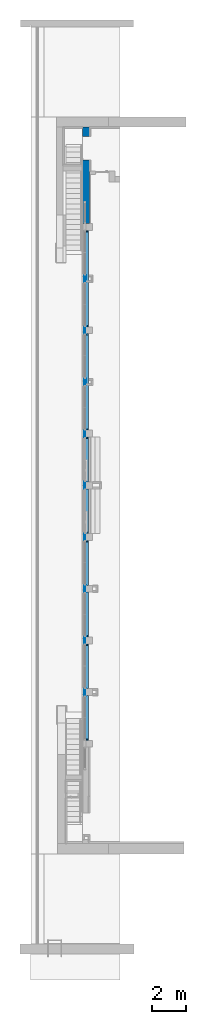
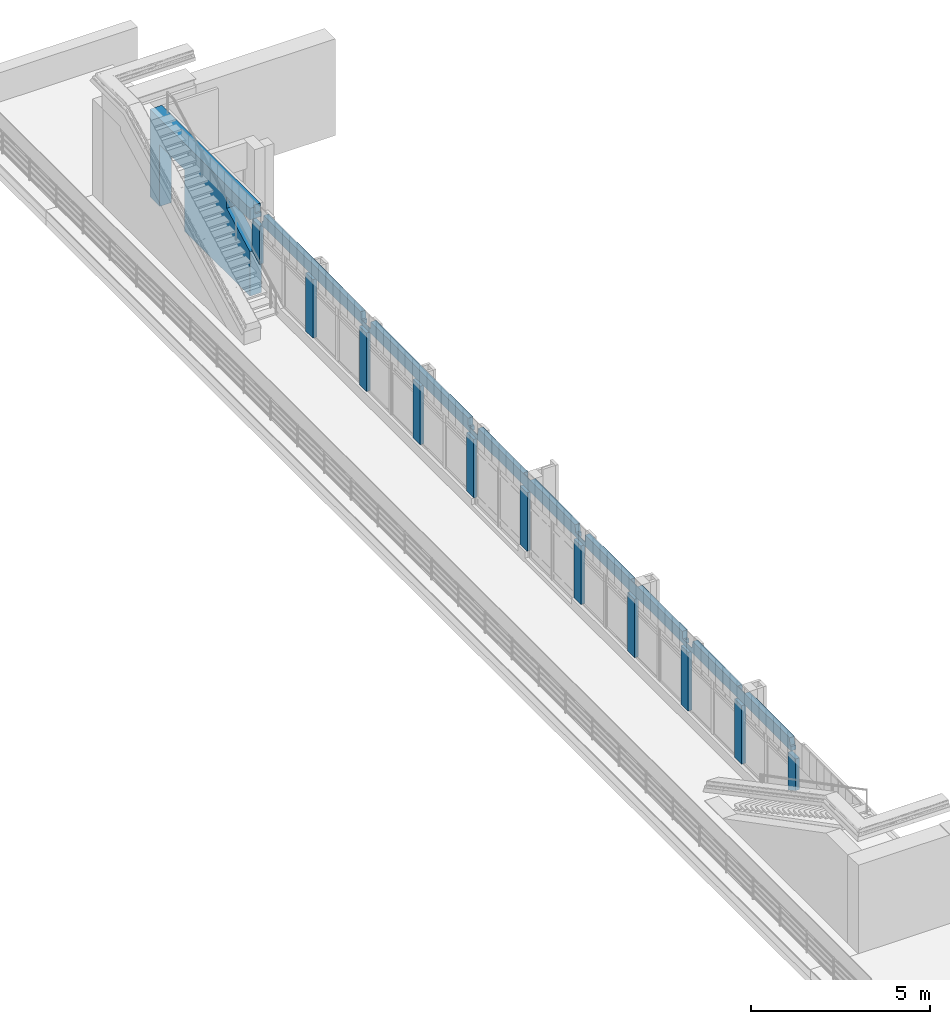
# One storey, part 11 of 16: 3 walls.
"""IFC2X3 building model written with IfcOpenShell, lengths in millimetres."""

import ifcopenshell
import ifcopenshell.guid

model = None  # the IFC model being written
_history = None  # IfcOwnerHistory: only IFC2X3 demands one
_inside = {}  # id of a spatial element -> (the spatial element, [elements in it])
_under = {}  # id of a project, library or spatial element -> (it, [spatial elements below it])
_declared = {}  # id of a project -> (the project, [libraries it declares])
_typed = {}  # id of a type object -> (the type object, [elements of that type])
_made_of = {}  # id of a material, layer set ... -> (it, [elements and type objects made of it])


def new_model(schema):
    """Start an empty IFC model of exactly this schema.

    Asked for "IFC4X3", IfcOpenShell would pick the latest addendum, in which some entities
    have other attributes; the version numbers below select the first issue.
    IFC2X3 requires an IfcOwnerHistory on every rooted entity: one is made here for all.
    """
    global model, _history
    if schema == "IFC4X3":
        model = ifcopenshell.file(schema_version=(4, 3, 0, 0))
    else:
        model = ifcopenshell.file(schema=schema)
    _inside.clear()
    _under.clear()
    _declared.clear()
    _typed.clear()
    _made_of.clear()
    _history = None
    if model.schema == "IFC2X3":
        org = make("IfcOrganization", Name="unknown")
        user = make(
            "IfcPersonAndOrganization",
            ThePerson=make("IfcPerson", FamilyName="unknown"),
            TheOrganization=org,
        )
        app = make(
            "IfcApplication",
            ApplicationDeveloper=org,
            Version="unknown",
            ApplicationFullName="unknown",
            ApplicationIdentifier="unknown",
        )
        _history = make(
            "IfcOwnerHistory",
            OwningUser=user,
            OwningApplication=app,
            ChangeAction="ADDED",
            CreationDate=0,
        )
    return model


def make(cls, **values):
    """One entity of the class cls with the attributes given. An attribute that is None is left unset."""
    return model.create_entity(
        cls, **{name: value for name, value in values.items() if value is not None}
    )


def entity(cls, *values):
    """Any entity or typed value of the class cls, its attributes in the order of the schema. None: left unset."""
    e = model.create_entity(cls)
    for i, value in enumerate(values):
        if value is not None:
            e[i] = value
    return e


def rooted(cls, **values):
    """An entity with a GlobalId (a new one), such as an element, a storey or a relation."""
    return make(cls, GlobalId=ifcopenshell.guid.new(), OwnerHistory=_history, **values)


def si_unit(unit_type, name, prefix=None):
    """IfcSIUnit, for example si_unit("LENGTHUNIT", "METRE", prefix="MILLI")."""
    return make("IfcSIUnit", UnitType=unit_type, Prefix=prefix, Name=name)


def converted_unit(unit_type, name, factor, base, dimensions=None, offset=None):
    """IfcConversionBasedUnit, such as the inch: factor (a typed value) times the base unit."""
    return make(
        "IfcConversionBasedUnit"
        if offset is None
        else "IfcConversionBasedUnitWithOffset",
        ConversionOffset=offset,
        Dimensions=None
        if dimensions is None
        else entity("IfcDimensionalExponents", *dimensions),
        UnitType=unit_type,
        Name=name,
        ConversionFactor=make(
            "IfcMeasureWithUnit", ValueComponent=factor, UnitComponent=base
        ),
    )


def derived_unit(unit_type, elements):
    """IfcDerivedUnit: a product of units, each with its exponent."""
    return make(
        "IfcDerivedUnit",
        Elements=[
            make("IfcDerivedUnitElement", Unit=unit, Exponent=power)
            for unit, power in elements
        ],
        UnitType=unit_type,
    )


def assignment(units):
    """IfcUnitAssignment: the units of a project."""
    return None if units is None else make("IfcUnitAssignment", Units=units)


def point(xyz):
    """IfcCartesianPoint."""
    return None if xyz is None else make("IfcCartesianPoint", Coordinates=xyz)


def direction(xyz):
    """IfcDirection."""
    return None if xyz is None else make("IfcDirection", DirectionRatios=xyz)


def frame(location, z_axis=None, x_axis=None):
    """IfcAxis2Placement3D, a coordinate frame: its origin and axes. An axis left out is left unset."""
    return make(
        "IfcAxis2Placement3D",
        Location=point(location),
        Axis=direction(z_axis),
        RefDirection=direction(x_axis),
    )


def origin():
    """The frame at (0, 0, 0) with its axes left unset."""
    return frame((0.0, 0.0, 0.0))


def place(relative_to, where):
    """IfcLocalPlacement: puts the frame where relative to a parent placement (None: the world)."""
    return make(
        "IfcLocalPlacement", PlacementRelTo=relative_to, RelativePlacement=where
    )


def context(
    kind, dimensions, precision=None, world=None, true_north=None, identifier=None
):
    """IfcGeometricRepresentationContext, for example the 3D "Model" context."""
    return make(
        "IfcGeometricRepresentationContext",
        ContextIdentifier=identifier,
        ContextType=kind,
        CoordinateSpaceDimension=dimensions,
        Precision=precision,
        WorldCoordinateSystem=world,
        TrueNorth=true_north,
    )


def subcontext(parent, identifier, kind, view, scale=None):
    """IfcGeometricRepresentationSubContext, for example "Body" below "Model"."""
    return make(
        "IfcGeometricRepresentationSubContext",
        ContextIdentifier=identifier,
        ContextType=kind,
        ParentContext=parent,
        TargetScale=scale,
        TargetView=view,
    )


def project(units=None, contexts=None):
    """IfcProject with its units and contexts."""
    return rooted(
        "IfcProject",
        Name="project",
        RepresentationContexts=contexts,
        UnitsInContext=assignment(units),
    )


def spatial(cls, under=None, at=None, **own):
    """A site, building, storey or space (cls), placed at a placement, below another one or the project."""
    s = rooted(cls, ObjectPlacement=at, **own)
    if under is not None:
        _under.setdefault(under.id(), (under, []))[1].append(s)
    return s


def faces_of(points, faces, orient=None, outer=None):
    """IfcFace entities. A face is a list of loops; a loop is a list of indices into points, from 0.

    orient and outer hold one flag for each loop. By default every Orientation is true, the
    first loop of a face is its IfcFaceOuterBound and the others are IfcFaceBound.
    """
    made = []
    for i, loops in enumerate(faces):
        bounds = []
        for j, loop in enumerate(loops):
            is_outer = j == 0 if outer is None else outer[i][j]
            bounds.append(
                make(
                    "IfcFaceOuterBound" if is_outer else "IfcFaceBound",
                    Bound=make("IfcPolyLoop", Polygon=[points[k] for k in loop]),
                    Orientation=True if orient is None else orient[i][j],
                )
            )
        made.append(make("IfcFace", Bounds=bounds))
    return made


def faceted_brep(points, faces, orient=None, outer=None, voids=None):
    """IfcFacetedBrep: a solid bounded by flat faces; with voids (closed shells), ...WithVoids."""
    shared = [point(p) for p in points]
    hull = make("IfcClosedShell", CfsFaces=faces_of(shared, faces, orient, outer))
    if voids is None:
        return make("IfcFacetedBrep", Outer=hull)
    return make(
        "IfcFacetedBrepWithVoids",
        Outer=hull,
        Voids=[
            make(cls, CfsFaces=faces_of(shared, fs, o, b)) for cls, fs, o, b in voids
        ],
    )


def shape(context_of_items, identifier, shape_type, items):
    """IfcShapeRepresentation: the items that make up one representation, for example the "Body"."""
    return make(
        "IfcShapeRepresentation",
        ContextOfItems=context_of_items,
        RepresentationIdentifier=identifier,
        RepresentationType=shape_type,
        Items=items,
    )


def material(Name=None, Category=None):
    """IfcMaterial."""
    return make("IfcMaterial", Name=Name, Category=Category)


def layer(
    of_material, thickness, ventilated=None, Name=None, Category=None, Priority=None
):
    """IfcMaterialLayer: one layer of a wall or slab, of a material (None: an air gap)."""
    return make(
        "IfcMaterialLayer",
        Material=of_material,
        LayerThickness=thickness,
        IsVentilated=ventilated,
        Name=Name,
        Category=Category,
        Priority=Priority,
    )


def layer_set(layers, Name=None):
    """IfcMaterialLayerSet."""
    return make("IfcMaterialLayerSet", MaterialLayers=layers, LayerSetName=Name)


def made_of(thing, what):
    """Note that an element or type object is made of a material, layer set ...; save() writes the relation."""
    if what is not None:
        _made_of.setdefault(what.id(), (what, []))[1].append(thing)
    return thing


def type_object(cls, material=None, **own):
    """A type object (cls), such as IfcWallType, which elements share."""
    return made_of(rooted(cls, **own), material)


def element(
    cls,
    number,
    at=None,
    inside=None,
    cuts=None,
    type_object=None,
    material=None,
    context=None,
    identifier="Body",
    shape_type=None,
    held_by="IfcProductDefinitionShape",
    body=None,
    shapes=None,
    **own,
):
    """One element of the class cls, such as IfcWall. Its Tag is "e" and its number.

    at: its placement. inside: the storey or other place that contains it. cuts: it is an
    opening in that element (IfcRelVoidsElement). A single representation is given by context,
    identifier, shape_type and body (its items); several are given by shapes. held_by: the class
    of the entity that holds the representations. save() writes the other relations.
    """
    e = rooted(cls, Tag="e%d" % number, ObjectPlacement=at, **own)
    if body is not None:
        shapes = [shape(context, identifier, shape_type, body)]
    if shapes is not None:
        e.Representation = make(held_by, Representations=shapes)
    if inside is not None:
        _inside.setdefault(inside.id(), (inside, []))[1].append(e)
    if cuts is not None:
        rooted(
            "IfcRelVoidsElement", RelatingBuildingElement=cuts, RelatedOpeningElement=e
        )
    if type_object is not None:
        _typed.setdefault(type_object.id(), (type_object, []))[1].append(e)
    return made_of(e, material)


def aggregate(whole, parts):
    """IfcRelAggregates: a whole, such as a stair, and the parts it consists of."""
    return rooted("IfcRelAggregates", RelatingObject=whole, RelatedObjects=parts)


def save(model, path):
    """Write the relations noted so far, then the file.

    IfcRelAggregates (storeys below a building ...), IfcRelContainedInSpatialStructure (elements
    in a storey), IfcRelDefinesByType, IfcRelAssociatesMaterial and IfcRelDeclares: one each for
    every whole, place, type object, material and project.
    """
    for whole, parts in _under.values():
        aggregate(whole, parts)
    for where, things in _inside.values():
        rooted(
            "IfcRelContainedInSpatialStructure",
            RelatedElements=things,
            RelatingStructure=where,
        )
    for kind, things in _typed.values():
        rooted("IfcRelDefinesByType", RelatedObjects=things, RelatingType=kind)
    for what, things in _made_of.values():
        rooted("IfcRelAssociatesMaterial", RelatedObjects=things, RelatingMaterial=what)
    for by, libraries in _declared.values():
        rooted("IfcRelDeclares", RelatingContext=by, RelatedDefinitions=libraries)
    model.write(path)


model = new_model("IFC2X3")

# Units and contexts
model_context = context("Model", 3, precision=0.01, world=origin(), true_north=direction((6.123031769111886e-17, 1.0)))
body_context = subcontext(model_context, "Body", "Model", "MODEL_VIEW")
ifc_project = project(units=[si_unit("LENGTHUNIT", "METRE", prefix="MILLI"), si_unit("AREAUNIT", "SQUARE_METRE"), si_unit("VOLUMEUNIT", "CUBIC_METRE"), converted_unit("PLANEANGLEUNIT", "DEGREE", entity("IfcPlaneAngleMeasure", 0.017453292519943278), si_unit("PLANEANGLEUNIT", "RADIAN"), dimensions=[0, 0, 0, 0, 0, 0, 0]), si_unit("MASSUNIT", "GRAM", prefix="KILO"), derived_unit("MASSDENSITYUNIT", [(si_unit("MASSUNIT", "GRAM", prefix="KILO"), 1), (si_unit("LENGTHUNIT", "METRE"), -3)]), derived_unit("IONCONCENTRATIONUNIT", [(si_unit("MASSUNIT", "GRAM", prefix="KILO"), 1), (si_unit("LENGTHUNIT", "METRE"), -3)]), derived_unit("MOMENTOFINERTIAUNIT", [(si_unit("LENGTHUNIT", "METRE"), 4)]), si_unit("TIMEUNIT", "SECOND"), si_unit("FREQUENCYUNIT", "HERTZ"), si_unit("THERMODYNAMICTEMPERATUREUNIT", "DEGREE_CELSIUS"), derived_unit("THERMALTRANSMITTANCEUNIT", [(si_unit("MASSUNIT", "GRAM", prefix="KILO"), 1), (si_unit("THERMODYNAMICTEMPERATUREUNIT", "KELVIN"), -1), (si_unit("TIMEUNIT", "SECOND"), -3)]), derived_unit("THERMALCONDUCTANCEUNIT", [(si_unit("MASSUNIT", "GRAM", prefix="KILO"), 1), (si_unit("THERMODYNAMICTEMPERATUREUNIT", "KELVIN"), -1), (si_unit("TIMEUNIT", "SECOND"), -3), (si_unit("LENGTHUNIT", "METRE"), 1)]), derived_unit("VOLUMETRICFLOWRATEUNIT", [(si_unit("LENGTHUNIT", "METRE", prefix="DECI"), 3), (si_unit("TIMEUNIT", "SECOND"), -1)]), derived_unit("MASSFLOWRATEUNIT", [(si_unit("MASSUNIT", "GRAM", prefix="KILO"), 1), (si_unit("TIMEUNIT", "SECOND"), -1)]), derived_unit("ROTATIONALFREQUENCYUNIT", [(si_unit("TIMEUNIT", "SECOND"), -1)]), si_unit("ELECTRICCURRENTUNIT", "AMPERE"), si_unit("ELECTRICVOLTAGEUNIT", "VOLT"), si_unit("POWERUNIT", "WATT"), si_unit("FORCEUNIT", "NEWTON", prefix="KILO"), si_unit("ILLUMINANCEUNIT", "LUX"), si_unit("LUMINOUSFLUXUNIT", "LUMEN"), si_unit("LUMINOUSINTENSITYUNIT", "CANDELA"), si_unit("ENERGYUNIT", "JOULE"), derived_unit("USERDEFINED", [(si_unit("MASSUNIT", "GRAM", prefix="KILO"), -1), (si_unit("LENGTHUNIT", "METRE"), -2), (si_unit("TIMEUNIT", "SECOND"), 3), (si_unit("LUMINOUSFLUXUNIT", "LUMEN"), 1)]), derived_unit("USERDEFINED", [(si_unit("MASSUNIT", "GRAM", prefix="KILO"), 1), (si_unit("TIMEUNIT", "SECOND"), -3), (si_unit("LENGTHUNIT", "METRE"), 3), (si_unit("ELECTRICCURRENTUNIT", "AMPERE"), -2)]), derived_unit("SOUNDPOWERUNIT", [(si_unit("MASSUNIT", "GRAM", prefix="KILO"), 1), (si_unit("TIMEUNIT", "SECOND"), -3), (si_unit("LENGTHUNIT", "METRE"), 2)]), derived_unit("SOUNDPRESSUREUNIT", [(si_unit("MASSUNIT", "GRAM", prefix="KILO"), 1), (si_unit("LENGTHUNIT", "METRE"), -1), (si_unit("TIMEUNIT", "SECOND"), -2)]), derived_unit("LINEARVELOCITYUNIT", [(si_unit("LENGTHUNIT", "METRE"), 1), (si_unit("TIMEUNIT", "SECOND"), -1)]), si_unit("PRESSUREUNIT", "PASCAL"), derived_unit("USERDEFINED", [(si_unit("MASSUNIT", "GRAM", prefix="KILO"), 1), (si_unit("LENGTHUNIT", "METRE"), -2), (si_unit("TIMEUNIT", "SECOND"), -2)]), derived_unit("LINEARFORCEUNIT", [(si_unit("MASSUNIT", "GRAM", prefix="KILO"), 1), (si_unit("TIMEUNIT", "SECOND"), -2)]), derived_unit("PLANARFORCEUNIT", [(si_unit("MASSUNIT", "GRAM", prefix="KILO"), 1), (si_unit("LENGTHUNIT", "METRE"), -1), (si_unit("TIMEUNIT", "SECOND"), -2)]), derived_unit("SPECIFICHEATCAPACITYUNIT", [(si_unit("THERMODYNAMICTEMPERATUREUNIT", "KELVIN"), -1), (si_unit("LENGTHUNIT", "METRE"), 2), (si_unit("TIMEUNIT", "SECOND"), -2)]), derived_unit("HEATFLUXDENSITYUNIT", [(si_unit("MASSUNIT", "GRAM", prefix="KILO"), 1), (si_unit("TIMEUNIT", "SECOND"), -3)]), derived_unit("HEATINGVALUEUNIT", [(si_unit("LENGTHUNIT", "METRE"), 2), (si_unit("TIMEUNIT", "SECOND"), -2)]), derived_unit("VAPORPERMEABILITYUNIT", [(si_unit("LENGTHUNIT", "METRE"), -1), (si_unit("TIMEUNIT", "SECOND"), 1)]), derived_unit("DYNAMICVISCOSITYUNIT", [(si_unit("MASSUNIT", "GRAM", prefix="KILO"), 1), (si_unit("TIMEUNIT", "SECOND"), -1), (si_unit("LENGTHUNIT", "METRE"), -1)]), derived_unit("THERMALEXPANSIONCOEFFICIENTUNIT", [(si_unit("THERMODYNAMICTEMPERATUREUNIT", "KELVIN"), -1)]), derived_unit("MODULUSOFELASTICITYUNIT", [(si_unit("MASSUNIT", "GRAM", prefix="KILO"), 1), (si_unit("LENGTHUNIT", "METRE"), -1), (si_unit("TIMEUNIT", "SECOND"), -2)]), derived_unit("ISOTHERMALMOISTURECAPACITYUNIT", [(si_unit("MASSUNIT", "GRAM", prefix="KILO"), -1), (si_unit("LENGTHUNIT", "METRE"), 3)]), derived_unit("MOISTUREDIFFUSIVITYUNIT", [(si_unit("TIMEUNIT", "SECOND"), -1), (si_unit("LENGTHUNIT", "METRE"), 2)]), derived_unit("MASSPERLENGTHUNIT", [(si_unit("MASSUNIT", "GRAM", prefix="KILO"), 1), (si_unit("LENGTHUNIT", "METRE"), -1)]), derived_unit("THERMALRESISTANCEUNIT", [(si_unit("MASSUNIT", "GRAM", prefix="KILO"), -1), (si_unit("TIMEUNIT", "SECOND"), 3), (si_unit("THERMODYNAMICTEMPERATUREUNIT", "KELVIN"), 1)]), derived_unit("ACCELERATIONUNIT", [(si_unit("LENGTHUNIT", "METRE"), 1), (si_unit("TIMEUNIT", "SECOND"), -2)]), derived_unit("ANGULARVELOCITYUNIT", [(si_unit("TIMEUNIT", "SECOND"), -1), (si_unit("PLANEANGLEUNIT", "RADIAN"), 1)]), derived_unit("LINEARSTIFFNESSUNIT", [(si_unit("MASSUNIT", "GRAM", prefix="KILO"), 1), (si_unit("TIMEUNIT", "SECOND"), -2)]), derived_unit("WARPINGCONSTANTUNIT", [(si_unit("LENGTHUNIT", "METRE"), 6)]), derived_unit("LINEARMOMENTUNIT", [(si_unit("MASSUNIT", "GRAM", prefix="KILO"), 1), (si_unit("LENGTHUNIT", "METRE"), 1), (si_unit("TIMEUNIT", "SECOND"), -2)]), derived_unit("TORQUEUNIT", [(si_unit("MASSUNIT", "GRAM", prefix="KILO"), 1), (si_unit("LENGTHUNIT", "METRE"), 2), (si_unit("TIMEUNIT", "SECOND"), -2)])], contexts=[model_context])

# Site, building, storey
site_placement = place(None, origin())
site = spatial("IfcSite", under=ifc_project, at=site_placement, Name="Default", CompositionType="ELEMENT")
building_placement = place(site_placement, origin())
building = spatial("IfcBuilding", under=site, at=building_placement, Name="Eesti Rahvusraamatukogu hoone renoveerimise projekteerimistööd", CompositionType="ELEMENT")
storey_placement = place(building_placement, frame((0.0, 0.0, 8250.000000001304)))
storey = spatial("IfcBuildingStorey", under=building, at=storey_placement, Name="3. korrus", CompositionType="ELEMENT", Elevation=8250.000000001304)

# Walls
ifc_material_1 = material(Name="ol. olev materjal")
ifc_layer_1 = layer(ifc_material_1, 380.00000000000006)
ifc_layer_set_1 = layer_set([ifc_layer_1], Name="Basic Wall:ol. olev - 380mm")
wall_type_1 = type_object("IfcWallType", Name="Basic Wall:ol. olev - 380mm", PredefinedType="STANDARD", material=ifc_layer_set_1)
wall_1_placement = place(storey_placement, frame((-33580.0, 42590.0, 0.0), z_axis=(0.0, 0.0, 1.0), x_axis=(0.0, 1.0, 0.0)))
element("IfcWall", 1, at=wall_1_placement, inside=storey, type_object=wall_type_1, Name="Basic Wall:ol. olev - 380mm", ObjectType="Basic Wall:ol. olev - 380mm", context=body_context, shape_type="Brep", body=[
    faceted_brep([(5055.0, -190.0, 0.0), (5515.499999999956, -190.0, 0.0), (5600.0, -190.0, 0.0), (5600.0, -190.0, 3000.0), (5515.499999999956, -190.0, 3000.0), (3040.0, -190.0, 3000.0), (2840.0, -190.0, 3000.0), (81.73913043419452, -190.0, 3000.0), (60.0, -190.0, 2750.0), (0.0, -190.0, 2750.0), (0.0, -190.0, 2600.0), (1299.9999999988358, -190.0, 2600.0), (1299.9999999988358, -190.0, 2215.384615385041), (0.0, -190.0, 1515.3846153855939), (0.0, -190.0, 0.0), (2840.0, -190.0, 0.0), (3040.0, -190.0, 0.0), (3675.0, -190.0, 0.0), (3675.0, -190.0, 2100.0), (5055.0, -190.0, 2100.0), (0.0, 190.0, 3000.0), (5600.0, 190.0, 3000.0), (5600.0, 190.0, 0.0), (5055.0, 190.0, 0.0), (5055.0, 190.0, 2100.0), (3675.0, 190.0, 2100.0), (3675.0, 190.0, 0.0), (0.0, 190.0, 0.0), (0.0, 190.0, 1515.3846153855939), (1299.9999999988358, 190.0, 2215.384615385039), (1299.9999999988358, 190.0, 2600.0), (0.0, 190.0, 2600.0), (0.0, 10.0, 0.0), (0.0, 30.0, 3000.0), (81.73913043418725, 30.0, 3000.0), (0.0, -10.0, 1515.3846153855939), (0.0, 10.0, 1515.3846153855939), (0.0, -10.0, 2600.0), (0.0, 10.0, 2600.0), (60.0, 30.0, 2750.0), (0.0, 30.0, 2750.0), (0.0, 10.0, 2750.0)], [[[0, 1, 2, 3, 4, 5, 6, 7, 8, 9, 10, 11, 12, 13, 14, 15, 16, 17, 18, 19]], [[20, 21, 22, 23, 24, 25, 26, 27, 28, 29, 30, 31]], [[14, 32, 27, 26, 17, 16, 15]], [[21, 20, 33, 34, 7, 6, 5, 4, 3]], [[27, 32, 14, 13, 35, 36, 28]], [[3, 2, 22, 21]], [[30, 11, 10, 37, 38, 31]], [[11, 30, 29, 12]], [[12, 29, 28, 36, 35, 13]], [[39, 40, 41, 9, 8]], [[39, 34, 33, 40]], [[34, 39, 8, 7]], [[19, 24, 23, 0]], [[25, 18, 17, 26]], [[24, 19, 18, 25]], [[20, 31, 38, 37, 10, 9, 41, 40, 33]], [[2, 1, 0, 23, 22]]]),
])
ifc_material_2 = material(Name="EST. Ehitusplaat. Kipsplaat")
ifc_layer_2 = layer(ifc_material_2, 12.5)
ifc_material_3 = material(Name="EST. Metall. Alumiinium. Mütsprofiil.")
ifc_layer_3 = layer(ifc_material_3, 28.0)
ifc_material_4 = material(Name="EST. Soojustus.PIR. Default")
ifc_layer_4 = layer(ifc_material_4, 120.0)
ifc_layer_set_2 = layer_set([ifc_layer_2, ifc_layer_3, ifc_layer_4], Name="Basic Wall:VS-21 - 160 plaadi tagune")
wall_type_2 = type_object("IfcWallType", Name="Basic Wall:VS-21 - 160 plaadi tagune", PredefinedType="STANDARD", material=ifc_layer_set_2)
wall_2_placement = place(storey_placement, frame((-33528.749999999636, 42190.0, 2600.0), z_axis=(0.0, 0.0, 1.0), x_axis=(0.0, -1.0, 0.0)))
element("IfcWall", 2, at=wall_2_placement, inside=storey, type_object=wall_type_2, Name="Basic Wall:VS-21 - 160 plaadi tagune", ObjectType="Basic Wall:VS-21 - 160 plaadi tagune", context=body_context, shape_type="Brep", body=[
    faceted_brep([(0.0, -80.24999999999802, 0.0), (29599.999999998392, -80.24999999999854, 0.0), (29599.999999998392, -80.24999999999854, 150.0), (29540.0, -80.24999999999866, 150.0), (29518.260869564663, -80.2499999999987, 400.0), (24081.739130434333, -80.24999999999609, 400.0), (24060.0, -80.24999999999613, 150.0), (23540.0, -80.24999999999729, 150.0), (23518.26086956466, -80.24999999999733, 400.0), (18081.73913043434, -80.24999999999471, 400.0), (18060.0, -80.24999999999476, 150.0), (17540.0, -80.2499999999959, 150.0), (17518.26086956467, -80.24999999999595, 400.0), (12081.73913043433, -80.25000000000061, 400.0), (12060.0, -80.25000000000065, 150.0), (11540.0, -80.25000000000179, 150.0), (11518.260869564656, -80.25000000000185, 400.0), (6081.73913043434, -80.24999999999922, 400.0), (6060.0, -80.24999999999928, 150.0), (5540.0, -80.25000000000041, 150.0), (5518.26086956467, -80.25000000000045, 400.0), (81.73913043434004, -80.24999999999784, 400.0), (60.0, -80.24999999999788, 150.0), (0.0, -80.24999999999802, 150.0), (29540.0, 80.25000000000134, 150.0), (29599.999999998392, 80.25000000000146, 150.0), (29599.999999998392, 80.25000000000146, 0.0), (27000.0, 80.24999999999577, 0.0), (27000.0, 80.24999999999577, 400.0), (29518.260869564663, 80.2500000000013, 400.0), (0.0, -61.25000000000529, 0.0), (0.0, -41.24999999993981, 0.0), (0.0, 80.25000000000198, 0.0), (2600.0, 80.25000000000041, 0.0), (2680.0, 80.25000000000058, 0.0), (2920.0, 80.25000000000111, 0.0), (3000.0, 80.2500000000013, 0.0), (5600.0, 80.24999999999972, 0.0), (5600.0, -41.25000000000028, 0.0), (5600.0, -61.25000000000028, 0.0), (6000.0, -61.2499999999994, 0.0), (6000.0, -41.2499999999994, 0.0), (6000.0, 80.2500000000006, 0.0), (8600.0, 80.24999999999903, 0.0), (8690.49999999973, 80.24999999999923, 0.0), (8909.499999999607, 80.24999999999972, 0.0), (9000.0, 80.2499999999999, 0.0), (11600.0, 80.24999999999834, 0.0), (11600.0, -61.25000000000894, 0.0), (12000.0, -61.25000000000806, 0.0), (12000.0, 80.24999999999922, 0.0), (14600.0, 80.25000000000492, 0.0), (14600.0, -61.25000000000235, 0.0), (15000.0, -61.25000000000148, 0.0), (15000.0, 80.24999999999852, 0.0), (17600.0, 80.24999999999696, 0.0), (17600.0, -41.250000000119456, 0.0), (17600.0, -61.249999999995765, 0.0), (18000.0, -61.24999999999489, 0.0), (18000.0, -41.25000000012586, 0.0), (18000.0, 80.24999999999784, 0.0), (20600.0, 80.25000000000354, 0.0), (20600.0, -41.25000000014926, 0.0), (20600.0, -61.249999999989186, 0.0), (21000.0, -61.249999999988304, 0.0), (21000.0, -41.250000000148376, 0.0), (21000.0, 80.24999999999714, 0.0), (23600.0, 80.25000000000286, 0.0), (23600.0, -41.25000000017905, 0.0), (23600.0, -61.2499999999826, 0.0), (24000.0, -61.24999999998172, 0.0), (24000.0, -41.250000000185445, 0.0), (24000.0, 80.25000000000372, 0.0), (26600.0, 80.25000000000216, 0.0), (26600.0, -41.25000000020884, 0.0), (26600.0, -61.24999999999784, 0.0), (27000.0, -61.24999999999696, 0.0), (27000.0, -41.25000000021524, 0.0), (29599.999999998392, -41.250000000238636, 0.0), (29599.999999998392, -61.24999999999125, 0.0), (29599.999999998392, -61.24999999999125, 150.0), (17518.26086956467, 80.24999999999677, 400.0), (15000.0, 80.24999999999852, 400.0), (15000.0, -61.25000000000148, 400.0), (14600.0, -61.25000000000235, 400.0), (14600.0, 80.24999999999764, 400.0), (12081.73913043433, 80.24999999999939, 400.0), (0.0, -61.25000000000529, 150.0), (0.0, 80.25000000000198, 150.0), (6081.73913043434, 80.25000000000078, 400.0), (6060.0, 80.25000000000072, 150.0), (6000.0, 80.24999999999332, 150.0), (6000.0, -61.2499999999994, 150.0), (5600.0, -61.25000000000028, 150.0), (5600.0, 80.24999999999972, 150.0), (5540.0, 80.24999999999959, 150.0), (5518.26086956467, 80.24999999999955, 400.0), (18081.73913043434, 80.24999999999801, 400.0), (18060.0, 80.24999999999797, 150.0), (18000.0, 80.24999999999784, 150.0), (18000.0, -61.24999999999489, 150.0), (17600.0, -61.249999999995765, 150.0), (17600.0, 80.24999999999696, 150.0), (17540.0, 80.24999999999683, 150.0), (12060.0, 80.24999999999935, 150.0), (11540.0, 80.24999999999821, 150.0), (11518.260869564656, 80.24999999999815, 400.0), (24081.739130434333, 80.25000000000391, 400.0), (24060.0, 80.24999999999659, 150.0), (24000.0, 80.24999999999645, 150.0), (24000.0, -61.249999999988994, 150.0), (23600.0, -61.249999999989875, 150.0), (23600.0, 80.25000000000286, 150.0), (23540.0, 80.24999999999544, 150.0), (23518.26086956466, 80.25000000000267, 400.0), (60.0, 80.25000000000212, 150.0), (81.73913043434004, 80.25000000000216, 400.0), (12000.0, 80.24999999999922, 150.0), (12000.0, -61.25000000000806, 150.0), (11600.0, -61.25000000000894, 150.0), (11600.0, 80.24999999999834, 150.0), (26600.0, -61.24999999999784, 400.0), (26600.0, 80.25000000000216, 400.0), (27000.0, -61.24999999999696, 400.0), (20600.0, -61.249999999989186, 400.0), (20600.0, 80.25000000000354, 400.0), (21000.0, -61.249999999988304, 400.0), (21000.0, 80.24999999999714, 400.0), (3000.0, 80.2500000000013, 400.0), (2920.0, 80.25000000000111, 400.0), (2680.0, 80.25000000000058, 400.0), (2600.0, 80.25000000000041, 400.0), (9000.0, 80.2499999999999, 400.0), (8909.499999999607, 80.24999999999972, 400.0), (8690.49999999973, 80.24999999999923, 400.0), (8600.0, 80.24999999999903, 400.0)], [[[0, 1, 2, 3, 4, 5, 6, 7, 8, 9, 10, 11, 12, 13, 14, 15, 16, 17, 18, 19, 20, 21, 22, 23]], [[24, 25, 26, 27, 28, 29]], [[1, 0, 30, 31, 32, 33, 34, 35, 36, 37, 38, 39, 40, 41, 42, 43, 44, 45, 46, 47, 48, 49, 50, 51, 52, 53, 54, 55, 56, 57, 58, 59, 60, 61, 62, 63, 64, 65, 66, 67, 68, 69, 70, 71, 72, 73, 74, 75, 76, 77, 27, 26, 78, 79]], [[1, 79, 78, 26, 25, 80, 2]], [[12, 81, 82, 83, 84, 85, 86, 13]], [[32, 31, 30, 0, 23, 87, 88]], [[18, 17, 89, 90]], [[19, 18, 90, 91, 92, 93, 94, 95]], [[20, 19, 95, 96]], [[10, 9, 97, 98]], [[11, 10, 98, 99, 100, 101, 102, 103]], [[12, 11, 103, 81]], [[14, 13, 86, 104]], [[16, 15, 105, 106]], [[6, 5, 107, 108]], [[7, 6, 108, 109, 110, 111, 112, 113]], [[8, 7, 113, 114]], [[23, 22, 115, 88, 87]], [[22, 21, 116, 115]], [[15, 14, 104, 117, 118, 119, 120, 105]], [[3, 2, 80, 25, 24]], [[4, 3, 24, 29]], [[121, 75, 74, 73, 122]], [[75, 121, 123, 76]], [[76, 123, 28, 27, 77]], [[111, 69, 68, 67, 112]], [[69, 111, 110, 70]], [[70, 110, 109, 72, 71]], [[124, 63, 62, 61, 125]], [[63, 124, 126, 64]], [[64, 126, 127, 66, 65]], [[101, 57, 56, 55, 102]], [[57, 101, 100, 58]], [[58, 100, 99, 60, 59]], [[84, 52, 51, 85]], [[52, 84, 83, 53]], [[53, 83, 82, 54]], [[119, 48, 47, 120]], [[48, 119, 118, 49]], [[49, 118, 117, 50]], [[93, 39, 38, 37, 94]], [[39, 93, 92, 40]], [[40, 92, 91, 42, 41]], [[20, 96, 128, 129, 130, 131, 116, 21]], [[107, 5, 4, 29, 28, 123, 121, 122]], [[97, 9, 8, 114, 127, 126, 124, 125]], [[89, 17, 16, 106, 132, 133, 134, 135]], [[108, 107, 122, 73, 72, 109]], [[114, 113, 112, 67, 66, 127]], [[98, 97, 125, 61, 60, 99]], [[81, 103, 102, 55, 54, 82]], [[104, 86, 85, 51, 50, 117]], [[90, 89, 135, 134, 133, 132, 106, 105, 120, 47, 46, 45, 44, 43, 42, 91]], [[96, 95, 94, 37, 36, 35, 34, 33, 32, 88, 115, 116, 131, 130, 129, 128]]]),
])
ifc_layer_5 = layer(ifc_material_1, 130.0)
ifc_layer_set_3 = layer_set([ifc_layer_5], Name="Basic Wall:ol. olev - 130mm")
wall_type_3 = type_object("IfcWallType", Name="Basic Wall:ol. olev - 130mm", PredefinedType="STANDARD", material=ifc_layer_set_3)
wall_3_placement = place(storey_placement, frame((-33635.0, 42590.0, 600.0), z_axis=(0.0, 0.0, 1.0), x_axis=(0.0, -1.0, 0.0)))
element("IfcWall", 3, at=wall_3_placement, inside=storey, type_object=wall_type_3, Name="Basic Wall:ol. olev - 130mm", ObjectType="Basic Wall:ol. olev - 130mm", context=body_context, shape_type="Brep", body=[
    faceted_brep([(0.0, -65.0, 2000.0), (0.0, -65.0, 915.3846153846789), (400.0, -65.0, 700.0), (400.0, -65.0, 2000.0), (400.0, 45.0, 700.0), (400.0, 65.0, 700.0), (400.0, 65.0, 2000.0), (400.0, 45.0, 2000.0), (0.0, 45.0, 2000.0), (0.0, 65.0, 2000.0), (0.0, 65.0, 915.3846153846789), (0.0, 45.0, 915.3846153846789)], [[[0, 1, 2, 3]], [[3, 2, 4, 5, 6, 7]], [[1, 0, 8, 9, 10, 11]], [[1, 11, 10, 5, 4, 2]], [[9, 8, 0, 3, 7, 6]], [[10, 9, 6, 5]]]),
    faceted_brep([(30400.0, 65.0, 2000.0), (30400.0, 65.0, 915.3846153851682), (29999.999999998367, 65.0, 700.0), (29999.99999999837, 65.0, 2000.0), (30400.0, -65.0, 2000.0), (30400.0, -65.0, 915.3846153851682), (30400.0, 45.0, 915.3846153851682), (30400.0, 45.0, 2000.0), (29999.999999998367, 45.0, 2000.0), (29999.999999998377, -65.0, 2000.0), (29999.999999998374, -65.0, 700.0), (29999.999999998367, 45.0, 700.0)], [[[0, 1, 2, 3]], [[4, 5, 6, 1, 0, 7]], [[4, 7, 0, 3, 8, 9]], [[1, 6, 5, 10, 11, 2]], [[10, 9, 8, 3, 2, 11]], [[5, 4, 9, 10]]]),
    faceted_brep([(21400.0, -65.0, 2000.0), (21400.0, -65.0, 0.0), (21400.0, 45.0, 0.0), (21400.0, 65.0, 0.0), (21400.0, 65.0, 2000.0), (21400.0, 45.0, 2000.0), (21000.0, -65.0, 0.0), (21000.0, -65.0, 2000.0), (21000.0, 45.0, 2000.0), (21000.0, 65.0, 2000.0), (21000.0, 65.0, 0.0), (21000.0, 45.0, 0.0)], [[[0, 1, 2, 3, 4, 5]], [[6, 7, 8, 9, 10, 11]], [[6, 11, 10, 3, 2, 1]], [[9, 8, 7, 0, 5, 4]], [[4, 3, 10, 9]], [[1, 0, 7, 6]]]),
    faceted_brep([(24000.0, -65.0, 0.0), (24000.0, -65.0, 2000.0), (24000.0, 45.0, 2000.0), (24000.0, 65.0, 2000.0), (24000.0, 65.0, 0.0), (24000.0, 45.0, 0.0), (24400.0, -65.0, 2000.0), (24400.0, -65.0, 0.0), (24400.0, 45.0, 0.0), (24400.0, 65.0, 0.0), (24400.0, 65.0, 2000.0), (24400.0, 45.0, 2000.0)], [[[0, 1, 2, 3, 4, 5]], [[6, 7, 8, 9, 10, 11]], [[9, 8, 7, 0, 5, 4]], [[6, 11, 10, 3, 2, 1]], [[4, 3, 10, 9]], [[1, 0, 7, 6]]]),
    faceted_brep([(9000.0, -65.0, 0.0), (9000.0, -65.0, 2000.0), (9000.0, 65.0, 2000.0), (9000.0, 65.0, 0.0), (9400.0, -65.0, 2000.0), (9400.0, -65.0, 0.0), (9400.0, 65.0, 0.0), (9400.0, 65.0, 2000.0)], [[[0, 1, 2, 3]], [[4, 5, 6, 7]], [[4, 7, 2, 1]], [[6, 5, 0, 3]], [[3, 2, 7, 6]], [[1, 0, 5, 4]]]),
    faceted_brep([(6400.0, -65.0, 2000.0), (6400.0, -65.0, 0.0), (6400.0, 45.0, 0.0), (6400.0, 65.0, 0.0), (6400.0, 65.0, 2000.0), (6400.0, 45.0, 2000.0), (6000.0, -65.0, 0.0), (6000.0, -65.0, 2000.0), (6000.0, 45.0, 2000.0), (6000.0, 65.0, 2000.0), (6000.0, 65.0, 0.0), (6000.0, 45.0, 0.0)], [[[0, 1, 2, 3, 4, 5]], [[6, 7, 8, 9, 10, 11]], [[9, 8, 7, 0, 5, 4]], [[6, 11, 10, 3, 2, 1]], [[4, 3, 10, 9]], [[1, 0, 7, 6]]]),
    faceted_brep([(12000.0, -65.0, 0.0), (12000.0, -65.0, 2000.0), (12000.0, 45.0, 2000.0), (12000.0, 45.0, 0.0), (12400.0, 45.0, 2000.0), (12400.0, 45.0, 0.0), (12400.0, -65.0, 2000.0), (12400.0, -65.0, 0.0)], [[[0, 1, 2, 3]], [[3, 2, 4, 5]], [[6, 7, 5, 4]], [[1, 6, 4, 2]], [[7, 0, 3, 5]], [[1, 0, 7, 6]]]),
    faceted_brep([(27000.0, -65.0, 0.0), (27000.0, -65.0, 2000.0), (27000.0, 45.0, 2000.0), (27000.0, 65.0, 2000.0), (27000.0, 65.0, 0.0), (27000.0, 45.0, 0.0), (27399.999999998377, -65.0, 2000.0), (27399.999999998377, -65.0, 0.0), (27399.99999999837, 45.0, 0.0), (27399.99999999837, 65.0, 0.0), (27399.99999999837, 65.0, 2000.0), (27399.99999999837, 45.0, 2000.0)], [[[0, 1, 2, 3, 4, 5]], [[6, 7, 8, 9, 10, 11]], [[0, 5, 4, 9, 8, 7]], [[3, 2, 1, 6, 11, 10]], [[4, 3, 10, 9]], [[1, 0, 7, 6]]]),
    faceted_brep([(18000.0, -65.0, 0.0), (18000.0, -65.0, 2000.0), (18000.0, 45.0, 2000.0), (18000.0, 65.0, 2000.0), (18000.0, 65.0, 0.0), (18000.0, 45.0, 0.0), (18400.0, -65.0, 2000.0), (18400.0, -65.0, 0.0), (18400.0, 45.0, 0.0), (18400.0, 65.0, 0.0), (18400.0, 65.0, 2000.0), (18400.0, 45.0, 2000.0)], [[[0, 1, 2, 3, 4, 5]], [[6, 7, 8, 9, 10, 11]], [[9, 8, 7, 0, 5, 4]], [[6, 11, 10, 3, 2, 1]], [[4, 3, 10, 9]], [[1, 0, 7, 6]]]),
    faceted_brep([(15400.0, -65.0, 2000.0), (15400.0, -65.0, 0.0), (15400.0, 45.0, 0.0), (15400.0, 45.0, 2000.0), (15000.0, 45.0, 0.0), (15000.0, 45.0, 2000.0), (15000.0, -65.0, 0.0), (15000.0, -65.0, 2000.0)], [[[0, 1, 2, 3]], [[3, 2, 4, 5]], [[6, 7, 5, 4]], [[1, 6, 4, 2]], [[0, 3, 5, 7]], [[1, 0, 7, 6]]]),
    faceted_brep([(3000.0, -65.0, 0.0), (3000.0, -65.0, 2000.0), (3000.0, 65.0, 2000.0), (3000.0, 65.0, 0.0), (3400.0, -65.0, 2000.0), (3400.0, -65.0, 0.0), (3400.0, 65.0, 0.0), (3400.0, 65.0, 2000.0)], [[[0, 1, 2, 3]], [[4, 5, 6, 7]], [[5, 0, 3, 6]], [[4, 7, 2, 1]], [[3, 2, 7, 6]], [[1, 0, 5, 4]]]),
])

save(model, "model.ifc")
